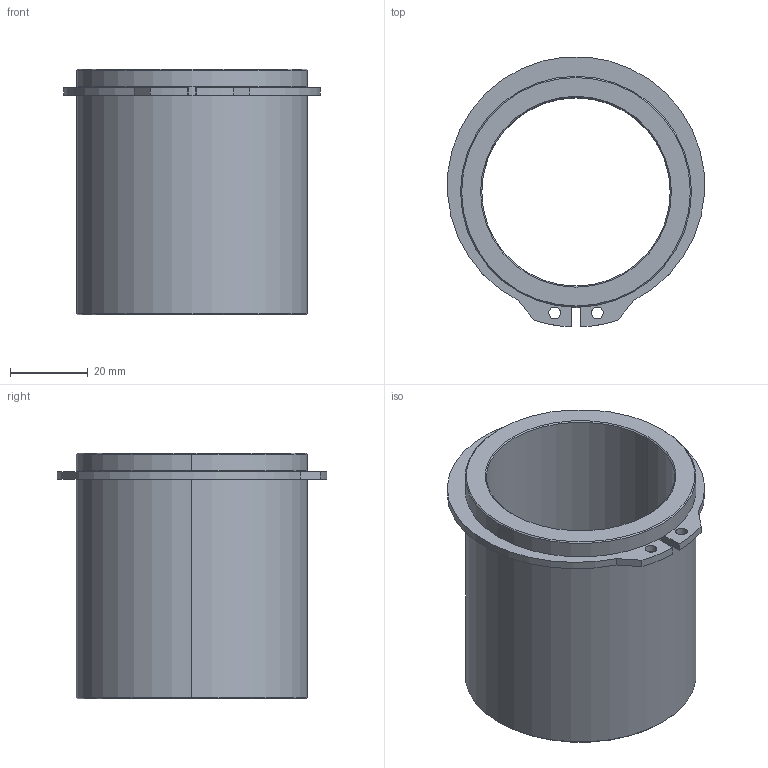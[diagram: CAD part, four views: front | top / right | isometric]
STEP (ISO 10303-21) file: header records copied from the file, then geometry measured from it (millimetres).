
FILE_DESCRIPTION((''),'2;1');
FILE_NAME('C13_048_063.stp','2008-12-17T16:07:36',(''),(''),'Mechanical Desktop 2009','Mechanical Desktop 2009',', , ');
FILE_SCHEMA(('CONFIG_CONTROL_DESIGN'));
Length unit declared in the file: millimetre
Products named in the file (2): Product; blmdl1
Assembly tree (1 placements, depth 2):
  Product
    blmdl1
Bounding box: 65.91 x 69.23 x 63 mm (x, y, z)
Volume: 59425 mm3; surface area: 26160.9 mm2
Topology: 2 solids, 2 shells, 34 faces, 76 edges, 48 vertices
Faces by surface type: cylinder 16, plane 10, cone 8
Entity records: 1075 total; most frequent: DIRECTION 188, CARTESIAN_POINT 160, ORIENTED_EDGE 152, AXIS2_PLACEMENT_3D 76, EDGE_CURVE 76, VERTEX_POINT 48, EDGE_LOOP 42, CIRCLE 40
